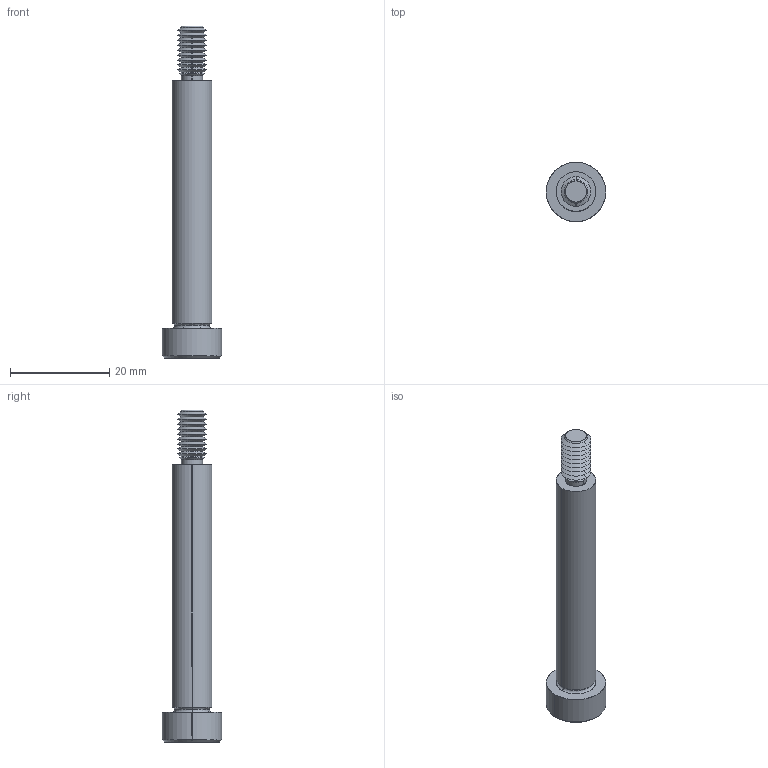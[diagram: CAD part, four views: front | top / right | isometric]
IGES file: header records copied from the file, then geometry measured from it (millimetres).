
Start section: SolidWorks IGES file using analytic representation for surfaces
Global section: file name: C:\Users\IanO\Documents\Temp Folder\GENERAL\SCREW REVISION\P0130_v2\P0130.T5_v2_20220106_IGES\P0130.080-050-T5.igs; native system: SolidWorks 2019; preprocessor: SolidWorks 2019; author: IanO; date: 220106.223640; units: millimetre
Bounding box: 12 x 12 x 67 mm (x, y, z)
Surface area: 2092.9 mm2 (no closed solid volume)
Topology: 0 solids, 0 shells, 80 faces, 580 edges, 578 vertices
Faces by surface type: revolution 60, bspline 20
